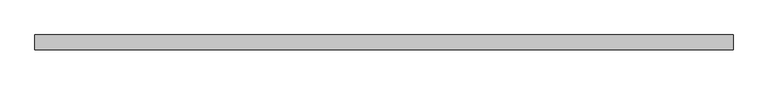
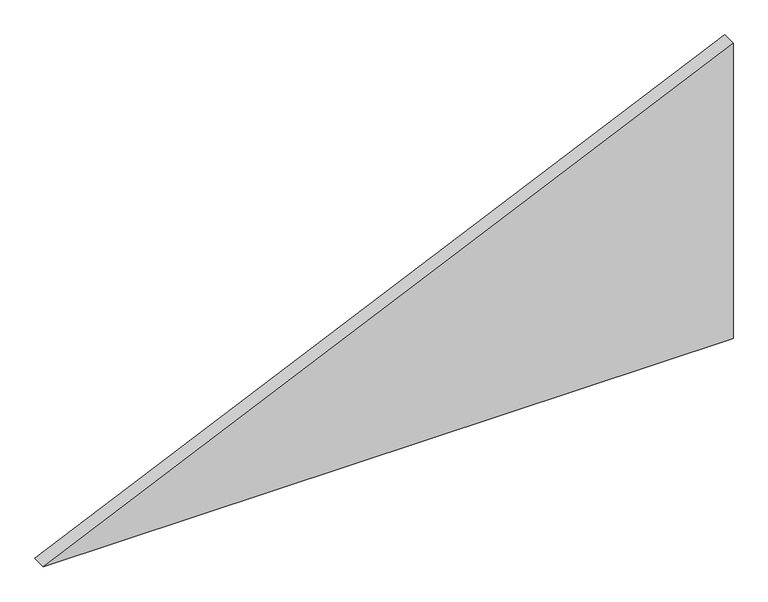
"""IFC4 building model written with IfcOpenShell, lengths in millimetres: plate geometry, Системная панель : С остеклением."""

from ifc_helpers import new_model, si_unit, frame, origin, place, context, project, spatial, polyline, outline, extrude, source, transform, mapped, element, save


def plate_4fcbce61(model_context):
    return source(origin(), model_context, "Body", "SweptSolid", [
        extrude(outline(polyline([(0.0, -583.0921978), (0.0, 583.0921978), (528.2715639, 583.0921978), (0.0, -583.0921978)])), frame((0.0, 24.5, 0.0), z_axis=(0.0, 1.0, 0.0), x_axis=(0.0, 0.0, 1.0)), (0.0, 0.0, 1.0), 25.0),
    ])


if __name__ == "__main__":
    model = new_model("IFC4")
    model_context = context("Model", 3, world=origin())
    ifc_project = project(units=[si_unit("LENGTHUNIT", "METRE", prefix="MILLI")], contexts=[model_context])
    site = spatial("IfcSite", under=ifc_project)
    building = spatial("IfcBuilding", under=site)
    placement = place(None, origin())
    plate_shape = plate_4fcbce61(model_context)
    element("IfcPlate", 1, ObjectType="Системная панель : С остеклением", at=placement, inside=building, context=model_context, shape_type="MappedRepresentation", body=[
        mapped(plate_shape, transform((0.0, 0.0, 0.0), x_axis=(1.0, 0.0, 0.0), y_axis=(0.0, 1.0, 0.0), z_axis=(0.0, 0.0, 1.0))),
    ])
    save(model, "model.ifc")
